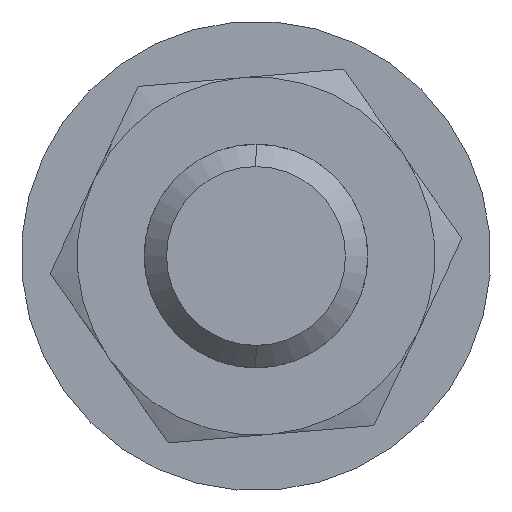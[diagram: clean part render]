
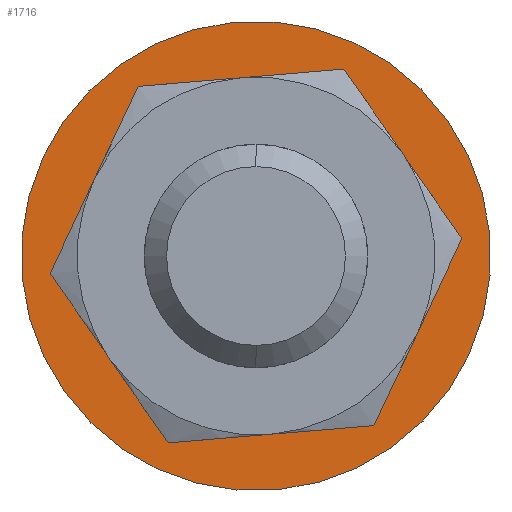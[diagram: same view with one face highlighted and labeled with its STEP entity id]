
A CAD part, front view. The second image highlights one B-rep face of the part: STEP entity #1716.
In plain terms, the highlighted planar face has unit normal (0, -1, 0) as drawn and (0, 0, -1) by its records, which use the part's own axes.
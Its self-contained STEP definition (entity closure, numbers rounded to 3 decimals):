
#11 = VERTEX_POINT ( 'NONE', #652 ) ;
#146 = DIRECTION ( 'NONE',  ( 0., 0., 1. ) ) ;
#198 = CIRCLE ( 'NONE', #953, 5.25 ) ;
#203 = EDGE_CURVE ( 'NONE', #363, #11, #1427, .T. ) ;
#229 = DIRECTION ( 'NONE',  ( 0., 0., 1. ) ) ;
#270 = FACE_BOUND ( 'NONE', #1200, .T. ) ;
#281 = EDGE_CURVE ( 'NONE', #1711, #1155, #381, .T. ) ;
#284 = DIRECTION ( 'NONE',  ( 0., 0., 1. ) ) ;
#311 = DIRECTION ( 'NONE',  ( 0., 0., 1. ) ) ;
#363 = VERTEX_POINT ( 'NONE', #1348 ) ;
#381 = CIRCLE ( 'NONE', #477, 5.25 ) ;
#415 = CARTESIAN_POINT ( 'NONE',  ( 0., 0., 0. ) ) ;
#442 = CARTESIAN_POINT ( 'NONE',  ( 0., 0., 0. ) ) ;
#451 = EDGE_LOOP ( 'NONE', ( #1118, #783 ) ) ;
#461 = PLANE ( 'NONE',  #1648 ) ;
#477 = AXIS2_PLACEMENT_3D ( 'NONE', #594, #146, #720 ) ;
#496 = ORIENTED_EDGE ( 'NONE', *, *, #1257, .T. ) ;
#594 = CARTESIAN_POINT ( 'NONE',  ( 0., 0., 0. ) ) ;
#613 = CARTESIAN_POINT ( 'NONE',  ( 5.25, 0., 0. ) ) ;
#652 = CARTESIAN_POINT ( 'NONE',  ( 10.5, 0., 0. ) ) ;
#704 = DIRECTION ( 'NONE',  ( 1., 0., 0. ) ) ;
#720 = DIRECTION ( 'NONE',  ( 1., 0., 0. ) ) ;
#783 = ORIENTED_EDGE ( 'NONE', *, *, #1554, .F. ) ;
#798 = DIRECTION ( 'NONE',  ( 1., 0., 0. ) ) ;
#953 = AXIS2_PLACEMENT_3D ( 'NONE', #1079, #229, #798 ) ;
#1014 = CIRCLE ( 'NONE', #1264, 10.5 ) ;
#1079 = CARTESIAN_POINT ( 'NONE',  ( 0., 0., 0. ) ) ;
#1080 = FACE_OUTER_BOUND ( 'NONE', #451, .T. ) ;
#1118 = ORIENTED_EDGE ( 'NONE', *, *, #203, .F. ) ;
#1123 = AXIS2_PLACEMENT_3D ( 'NONE', #415, #1408, #704 ) ;
#1155 = VERTEX_POINT ( 'NONE', #613 ) ;
#1200 = EDGE_LOOP ( 'NONE', ( #1299, #496 ) ) ;
#1257 = EDGE_CURVE ( 'NONE', #1155, #1711, #198, .T. ) ;
#1264 = AXIS2_PLACEMENT_3D ( 'NONE', #442, #284, #1435 ) ;
#1299 = ORIENTED_EDGE ( 'NONE', *, *, #281, .T. ) ;
#1300 = CARTESIAN_POINT ( 'NONE',  ( -5.25, 0., 0. ) ) ;
#1348 = CARTESIAN_POINT ( 'NONE',  ( -10.5, 0., 0. ) ) ;
#1408 = DIRECTION ( 'NONE',  ( 0., 0., 1. ) ) ;
#1427 = CIRCLE ( 'NONE', #1123, 10.5 ) ;
#1435 = DIRECTION ( 'NONE',  ( 1., 0., 0. ) ) ;
#1445 = DIRECTION ( 'NONE',  ( 1., 0., 0. ) ) ;
#1554 = EDGE_CURVE ( 'NONE', #11, #363, #1014, .T. ) ;
#1593 = CARTESIAN_POINT ( 'NONE',  ( 0., 0., 0. ) ) ;
#1648 = AXIS2_PLACEMENT_3D ( 'NONE', #1593, #311, #1445 ) ;
#1711 = VERTEX_POINT ( 'NONE', #1300 ) ;
#1716 = ADVANCED_FACE ( 'NONE', ( #1080, #270 ), #461, .F. ) ;
